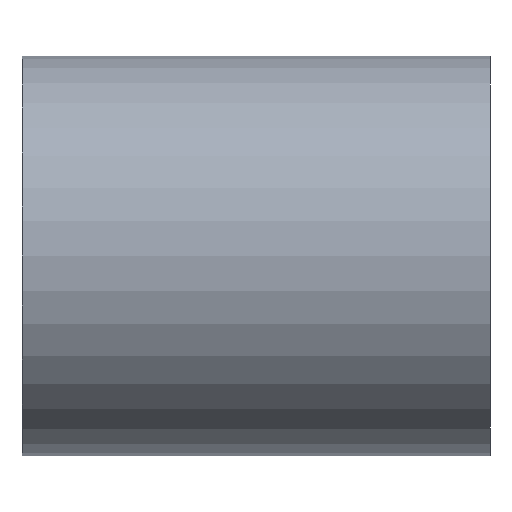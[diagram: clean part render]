
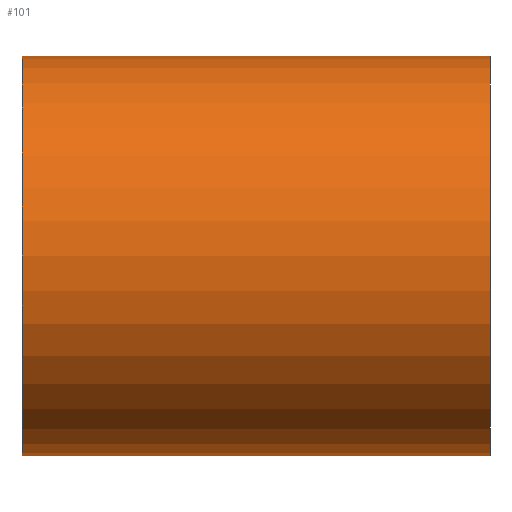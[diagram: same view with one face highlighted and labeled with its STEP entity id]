
A CAD part, front view. The second image highlights one B-rep face of the part: STEP entity #101.
In plain terms, the highlighted cylindrical face has radius 20.5 mm (diameter 41 mm), a full revolution.
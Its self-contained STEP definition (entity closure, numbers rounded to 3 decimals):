
#25=FACE_BOUND('',#48,.T.);
#33=FACE_OUTER_BOUND('',#47,.T.);
#47=EDGE_LOOP('',(#87));
#48=EDGE_LOOP('',(#88));
#57=CIRCLE('',#117,20.5);
#58=CIRCLE('',#119,20.5);
#65=VERTEX_POINT('',#174);
#66=VERTEX_POINT('',#177);
#73=EDGE_CURVE('',#65,#65,#57,.T.);
#74=EDGE_CURVE('',#66,#66,#58,.T.);
#87=ORIENTED_EDGE('',*,*,#73,.F.);
#88=ORIENTED_EDGE('',*,*,#74,.F.);
#94=CYLINDRICAL_SURFACE('',#118,20.5);
#101=ADVANCED_FACE('',(#33,#25),#94,.T.);
#117=AXIS2_PLACEMENT_3D('',#175,#147,#148);
#118=AXIS2_PLACEMENT_3D('',#176,#149,#150);
#119=AXIS2_PLACEMENT_3D('',#178,#151,#152);
#147=DIRECTION('center_axis',(-1.,0.,0.));
#148=DIRECTION('ref_axis',(0.,-1.,0.));
#149=DIRECTION('center_axis',(1.,0.,0.));
#150=DIRECTION('ref_axis',(0.,-1.,0.));
#151=DIRECTION('center_axis',(1.,0.,0.));
#152=DIRECTION('ref_axis',(0.,-1.,0.));
#174=CARTESIAN_POINT('',(-24.,20.5,0.));
#175=CARTESIAN_POINT('Origin',(-24.,0.,0.));
#176=CARTESIAN_POINT('Origin',(0.,0.,0.));
#177=CARTESIAN_POINT('',(24.,20.5,0.));
#178=CARTESIAN_POINT('Origin',(24.,0.,0.));
